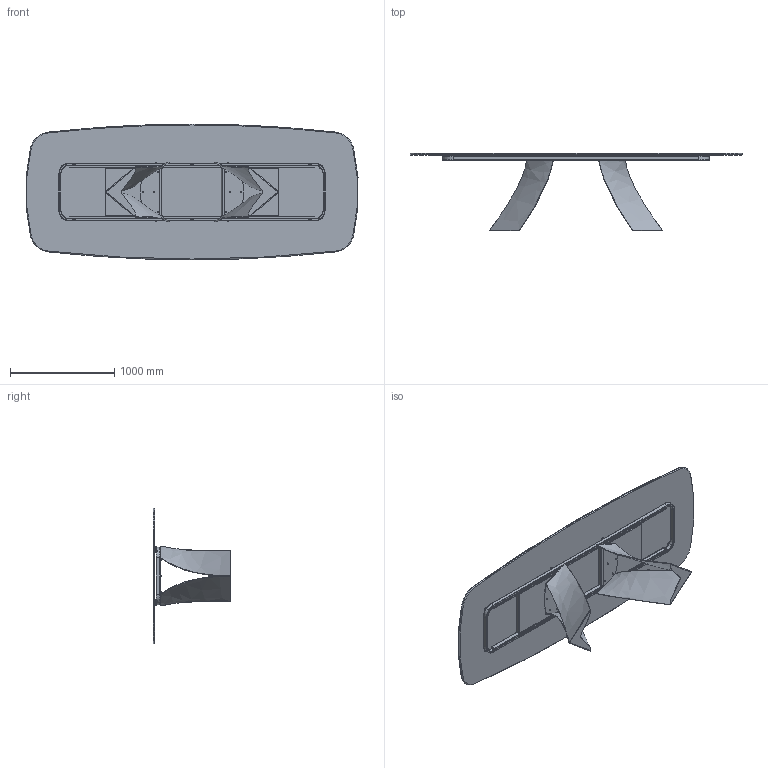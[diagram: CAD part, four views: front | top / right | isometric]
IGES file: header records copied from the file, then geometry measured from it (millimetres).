
Start section: SolidWorks IGES file using analytic representation for surfaces
Global section: file name: Y:\eforma\TECNICO\SOLIDWORKS\E-FORMA\1-TAVOLI\TWIST\02 parts\TW44C.IGS; native system: SolidWorks 2022; preprocessor: SolidWorks 2022; author: eforma.tech; date: 240807.144453; units: millimetre
Bounding box: 3179.54 x 741.37 x 1300 mm (x, y, z)
Volume: 75021183.3 mm3; surface area: 21593572.2 mm2
Topology: 68 solids, 68 shells, 1291 faces, 2999 edges, 1836 vertices
Faces by surface type: revolution 705, plane 520, bspline 66
